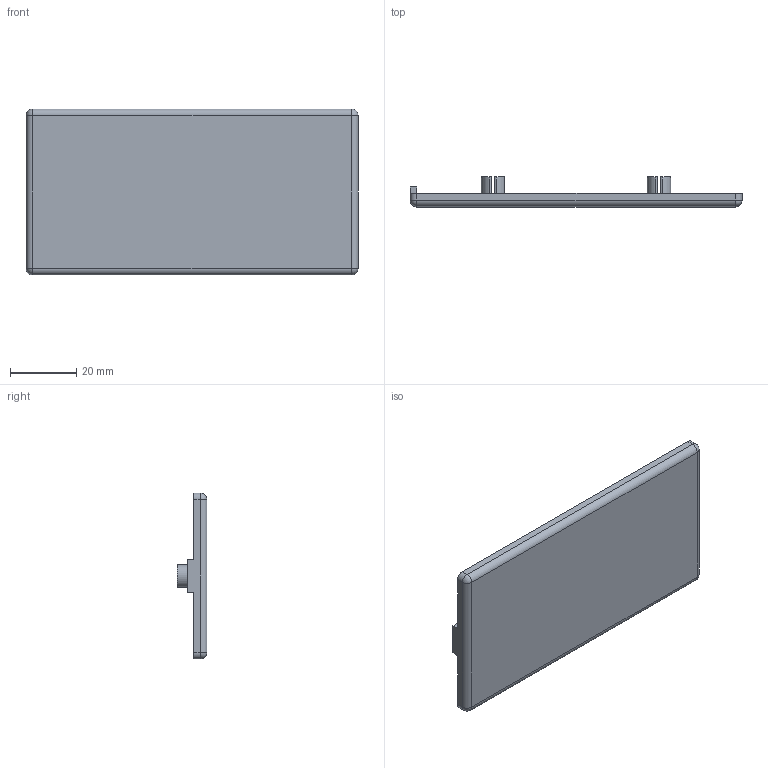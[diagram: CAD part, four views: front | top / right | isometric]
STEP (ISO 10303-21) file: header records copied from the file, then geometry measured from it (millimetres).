
FILE_DESCRIPTION (( 'STEP AP214' ), '1' );
FILE_NAME ('4011.STEP', '2017-08-10T06:16:23', ( '' ), ( '' ), 'SwSTEP 2.0', 'SolidWorks 2014', '' );
FILE_SCHEMA (( 'AUTOMOTIVE_DESIGN' ));
Length unit declared in the file: millimetre
Products named in the file (2): 4011
Bounding box: 100 x 9 x 50 mm (x, y, z)
Volume: 11180.7 mm3; surface area: 12039.7 mm2
Topology: 1 solids, 1 shells, 70 faces, 184 edges, 116 vertices
Faces by surface type: cylinder 40, plane 26, sphere 4
Entity records: 2197 total; most frequent: DIRECTION 404, CARTESIAN_POINT 368, ORIENTED_EDGE 360, EDGE_CURVE 180, AXIS2_PLACEMENT_3D 152, VERTEX_POINT 116, VECTOR 100, LINE 100
